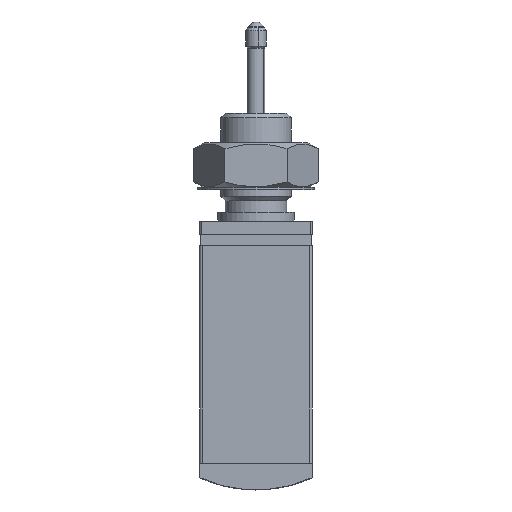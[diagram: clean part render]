
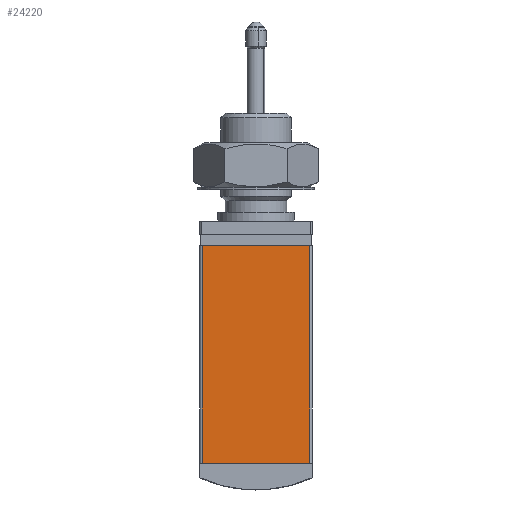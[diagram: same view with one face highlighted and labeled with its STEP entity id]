
A CAD part, front view. The second image highlights one B-rep face of the part: STEP entity #24220.
In plain terms, the highlighted planar face has unit normal (0, -1, 0).
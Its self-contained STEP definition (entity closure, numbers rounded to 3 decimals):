
#17681 = CARTESIAN_POINT ( 'NONE',  ( -12., -12.5, 48.5 ) ) ;
#17682 = DIRECTION ( 'NONE',  ( 0., 0., -1. ) ) ;
#17683 = VECTOR ( 'NONE', #17682, 1000. ) ;
#17684 = CARTESIAN_POINT ( 'NONE',  ( -12., -12.5, 48.5 ) ) ;
#17685 = LINE ( 'NONE', #17684, #17683 ) ;
#17686 = CARTESIAN_POINT ( 'NONE',  ( -12., -12.5, 0. ) ) ;
#17852 = FACE_OUTER_BOUND ( 'NONE', #24221, .T. ) ;
#17871 = CARTESIAN_POINT ( 'NONE',  ( 12., -12.5, 48.5 ) ) ;
#17872 = DIRECTION ( 'NONE',  ( 0., 0., -1. ) ) ;
#17873 = VECTOR ( 'NONE', #17872, 1000. ) ;
#17874 = CARTESIAN_POINT ( 'NONE',  ( 12., -12.5, 48.5 ) ) ;
#17875 = LINE ( 'NONE', #17874, #17873 ) ;
#17880 = CARTESIAN_POINT ( 'NONE',  ( 12., -12.5, 0. ) ) ;
#17881 = DIRECTION ( 'NONE',  ( -1., 0., 0. ) ) ;
#17882 = VECTOR ( 'NONE', #17881, 1000. ) ;
#17883 = CARTESIAN_POINT ( 'NONE',  ( 12., -12.5, 0. ) ) ;
#17884 = DIRECTION ( 'NONE',  ( 0., 0., 1. ) ) ;
#17885 = DIRECTION ( 'NONE',  ( 0., -1., 0. ) ) ;
#17886 = CARTESIAN_POINT ( 'NONE',  ( 12., -12.5, 48.5 ) ) ;
#17887 = AXIS2_PLACEMENT_3D ( 'NONE', #17886, #17885, #17884 ) ;
#17888 = LINE ( 'NONE', #17883, #17882 ) ;
#17889 = PLANE ( 'NONE',  #17887 ) ;
#17904 = DIRECTION ( 'NONE',  ( -1., 0., 0. ) ) ;
#17905 = VECTOR ( 'NONE', #17904, 1000. ) ;
#17906 = CARTESIAN_POINT ( 'NONE',  ( 12., -12.5, 48.5 ) ) ;
#17907 = LINE ( 'NONE', #17906, #17905 ) ;
#24168 = VERTEX_POINT ( 'NONE', #17686 ) ;
#24170 = EDGE_CURVE ( 'NONE', #24172, #24168, #17685, .T. ) ;
#24172 = VERTEX_POINT ( 'NONE', #17681 ) ;
#24220 = ADVANCED_FACE ( 'NONE', ( #17852 ), #17889, .T. ) ;
#24221 = EDGE_LOOP ( 'NONE', ( #24222, #24227, #24232, #24234 ) ) ;
#24222 = ORIENTED_EDGE ( 'NONE', *, *, #24223, .F. ) ;
#24223 = EDGE_CURVE ( 'NONE', #24225, #24168, #17888, .T. ) ;
#24225 = VERTEX_POINT ( 'NONE', #17880 ) ;
#24227 = ORIENTED_EDGE ( 'NONE', *, *, #24229, .F. ) ;
#24229 = EDGE_CURVE ( 'NONE', #24230, #24225, #17875, .T. ) ;
#24230 = VERTEX_POINT ( 'NONE', #17871 ) ;
#24232 = ORIENTED_EDGE ( 'NONE', *, *, #24233, .T. ) ;
#24233 = EDGE_CURVE ( 'NONE', #24230, #24172, #17907, .T. ) ;
#24234 = ORIENTED_EDGE ( 'NONE', *, *, #24170, .T. ) ;
